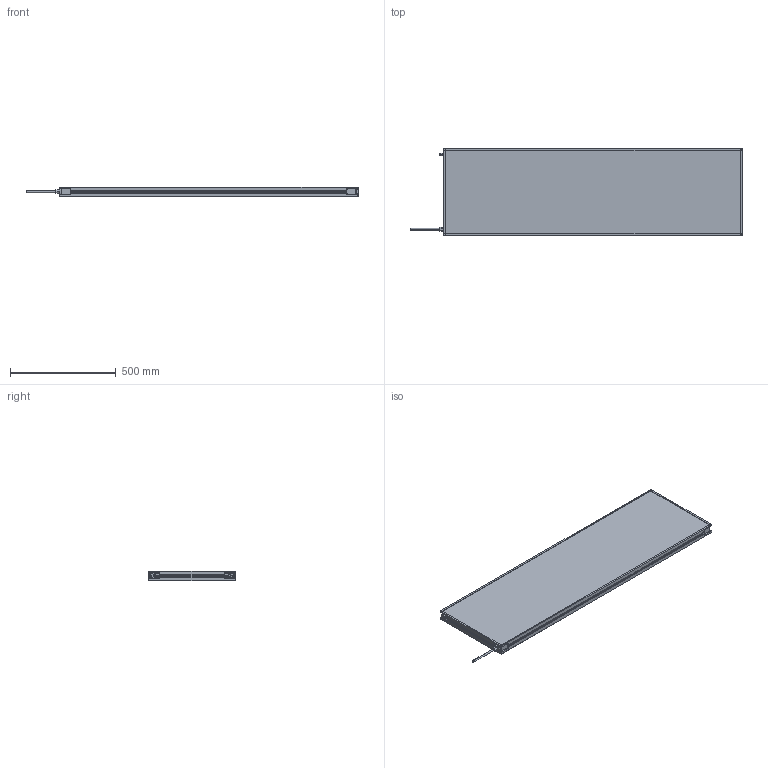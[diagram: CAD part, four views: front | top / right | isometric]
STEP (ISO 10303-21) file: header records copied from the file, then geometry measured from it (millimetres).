
FILE_DESCRIPTION (( 'STEP AP214' ), '1' );
FILE_NAME ('MBACK-xxxx-xxx-M1A2_CLIENT400x1400.STEP', '2022-04-01T11:36:33', ( '' ), ( '' ), 'SwSTEP 2.0', 'SolidWorks 2020', '' );
FILE_SCHEMA (( 'AUTOMOTIVE_DESIGN' ));
Length unit declared in the file: millimetre
Products named in the file (1): MBACK-xxxx-xxx-M1A2_CLIENT400x1400
Bounding box: 1567.4 x 408 x 45.5 mm (x, y, z)
Volume: 23909921.2 mm3; surface area: 1396125.4 mm2
Topology: 1 solids, 1 shells, 470 faces, 1210 edges, 804 vertices
Faces by surface type: plane 265, cylinder 117, bspline 80, cone 8
Entity records: 18046 total; most frequent: CARTESIAN_POINT 6837, ORIENTED_EDGE 2420, DIRECTION 2082, EDGE_CURVE 1210, VERTEX_POINT 804, LINE 800, VECTOR 800, AXIS2_PLACEMENT_3D 641
